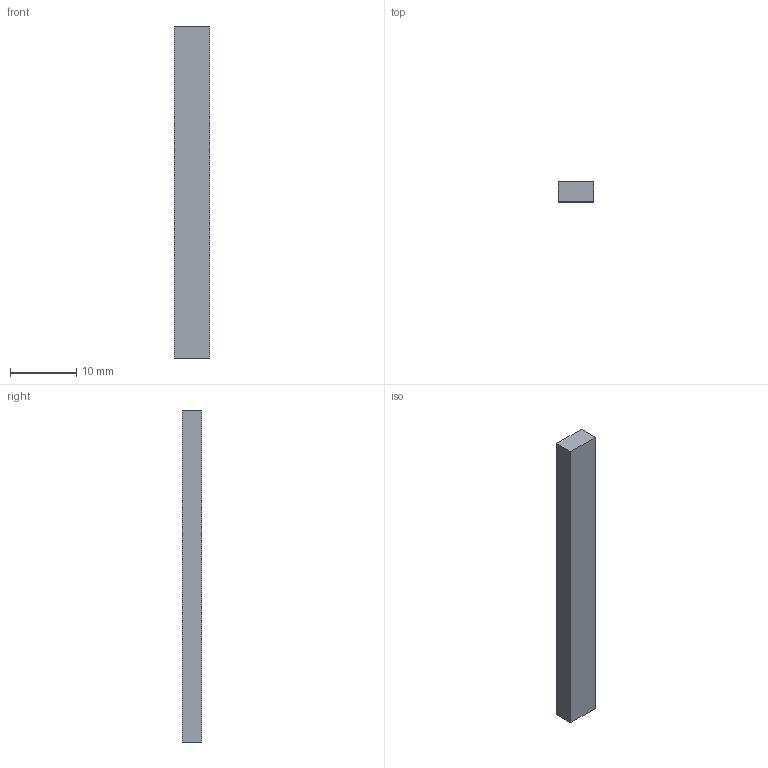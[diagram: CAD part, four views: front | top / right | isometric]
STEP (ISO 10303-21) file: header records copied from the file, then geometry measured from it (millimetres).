
FILE_DESCRIPTION (( 'STEP AP214' ), '1' );
FILE_NAME ('LS1510B_DriveRod_50-PiezoMotor.STEP', '2017-06-07T12:19:27', ( '' ), ( '' ), 'SwSTEP 2.0', 'SolidWorks 2016', '' );
FILE_SCHEMA (( 'AUTOMOTIVE_DESIGN' ));
Length unit declared in the file: millimetre
Products named in the file (2): LS1510B_DriveRod_50-PiezoMotor
Bounding box: 5.3 x 3 x 50 mm (x, y, z)
Volume: 795 mm3; surface area: 861.8 mm2
Topology: 1 solids, 1 shells, 6 faces, 12 edges, 8 vertices
Faces by surface type: plane 6
Entity records: 205 total; most frequent: DIRECTION 28, CARTESIAN_POINT 28, ORIENTED_EDGE 24, VECTOR 12, LINE 12, EDGE_CURVE 12, AXIS2_PLACEMENT_3D 8, VERTEX_POINT 8
